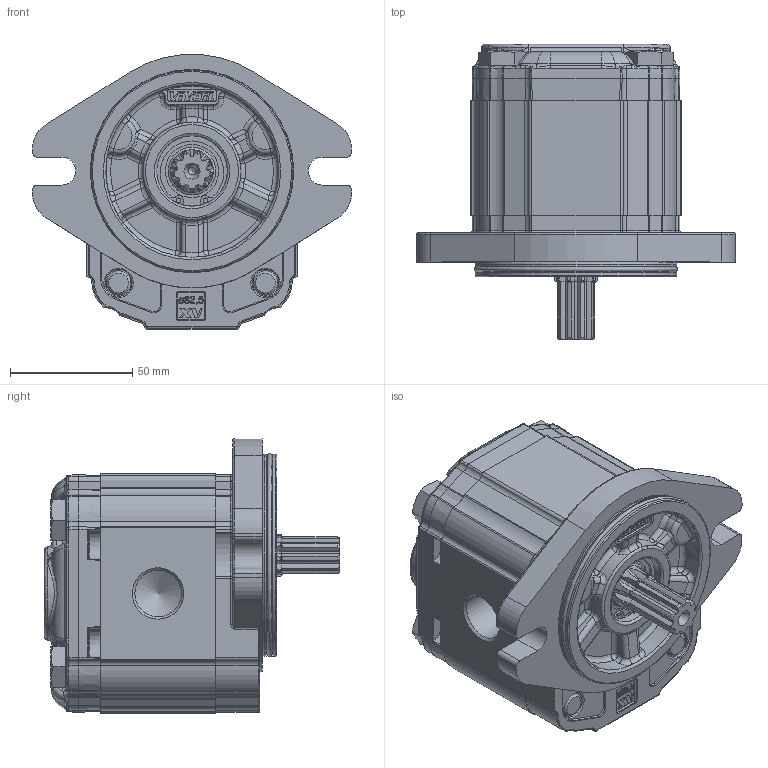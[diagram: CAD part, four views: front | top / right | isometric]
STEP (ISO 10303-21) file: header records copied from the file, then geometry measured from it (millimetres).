
FILE_DESCRIPTION(/* description */ ('Unknown'),/* implementation_level */ '2;1');
FILE_NAME(/* name */ 'X2P4151IBBA',/* time_stamp */ '2020-09-21T11:37:20+02:00',/* author */ ('Unknown'),/* organization */ ('Unknown'),/* preprocessor_version */ 'ST-DEVELOPER v16.7',/* originating_system */ 'DEX',/* authorisation */ $);
FILE_SCHEMA (('AUTOMOTIVE_DESIGN {1 0 10303 214 3 1 1}'));
Products named in the file (5): X2P4151IBBA; X2P51; 2I; X2BBH47; XP219-A
Assembly tree (4 placements, depth 2):
  X2P4151IBBA
    X2P51
    2I
    X2BBH47
    XP219-A
Bounding box: 130.38 x 120.7 x 112.3 mm (x, y, z)
Volume: 676342.9 mm3; surface area: 102634.2 mm2
Topology: 4 solids, 5 shells, 2195 faces, 5407 edges, 3280 vertices
Faces by surface type: cylinder 649, plane 589, bspline 570, torus 246, cone 103, sphere 38
Full cylindrical faces by diameter (mm): 2 x2, 10 x4, 10.5 x4, 11 x2, 16 x4, 17.42 x1, 17.48 x2, 18.631 x1, 18.724 x1, 19 x1, 20.595 x1, 21.741 x1, 25.834 x1, 28.56 x1, 28.57 x1, 28.8 x1, 30.4 x1, 79.6 x2, 82.5 x2
Entity records: 100887 total; most frequent: CARTESIAN_POINT 39076, ORIENTED_EDGE 10468, DIRECTION 8739, EDGE_CURVE 5234, AXIS2_PLACEMENT_3D 3323, VERTEX_POINT 3228, FACE_BOUND 2376, EDGE_LOOP 2372
